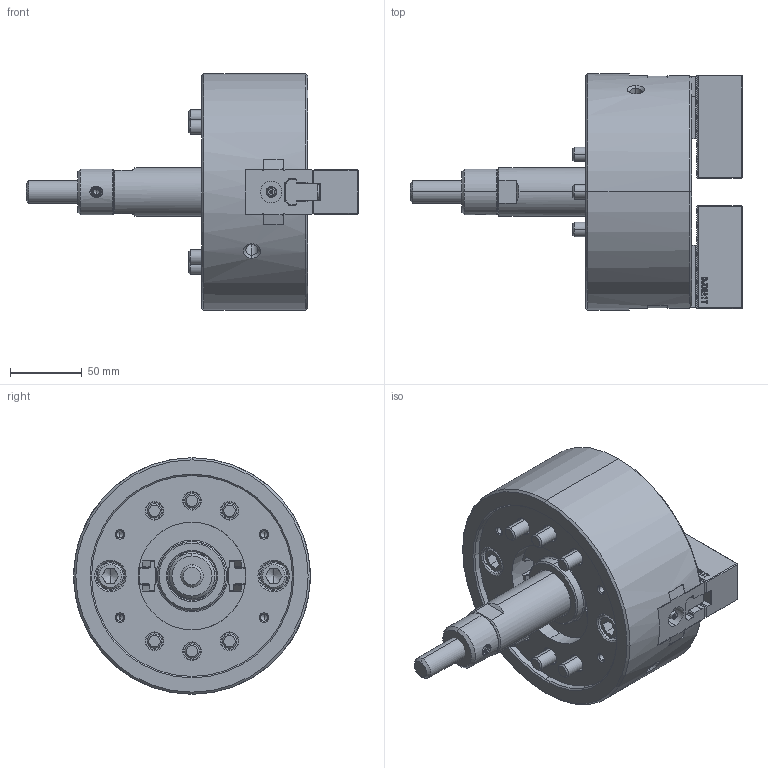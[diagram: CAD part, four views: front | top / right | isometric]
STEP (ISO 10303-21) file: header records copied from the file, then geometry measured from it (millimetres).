
FILE_DESCRIPTION (( 'STEP AP214' ), '1' );
FILE_NAME ('DT1_NLT06_OUTSIDE_VIEW_HCL.STEP', '2026-03-23T00:25:30', ( '' ), ( '' ), 'SwSTEP 2.0', 'SolidWorks 2022', '' );
FILE_SCHEMA (( 'AUTOMOTIVE_DESIGN' ));
Length unit declared in the file: millimetre
Products named in the file (11): DT1_NLT06_DN^DT1_NLT06; DT1_NLT06_OUTSIDE_VIEW_HCL; DT1_NLT06_SOFTJAW^DT1_NLT06; DT1_NLT06_M10x30^DT1_NLT06; DT1_NLT06_M5x12^DT1_NLT06; Copy of P31410^DT1_NLT06; DT1_NLT06_M10x70^DT1_NLT06; DT1_NLT06_TNUT^DT1_NLT06; DT1_NLT06_DRAWSCREW^DT1_NLT06; DT1_NLT06_COVER^DT1_NLT06; DT1_NLT06_BASE^DT1_NLT06
Assembly tree (23 placements, depth 2):
  DT1_NLT06_OUTSIDE_VIEW_HCL
    DT1_NLT06_SOFTJAW^DT1_NLT06  x2
    DT1_NLT06_TNUT^DT1_NLT06  x2
    DT1_NLT06_COVER^DT1_NLT06
    DT1_NLT06_DRAWSCREW^DT1_NLT06
    Copy of P31410^DT1_NLT06
    DT1_NLT06_DN^DT1_NLT06
    DT1_NLT06_BASE^DT1_NLT06
    DT1_NLT06_M10x70^DT1_NLT06  x6
    DT1_NLT06_M10x30^DT1_NLT06  x4
    DT1_NLT06_M5x12^DT1_NLT06  x4
Bounding box: 231.5 x 165 x 165 mm (x, y, z)
Volume: 1614542.9 mm3; surface area: 244167.9 mm2
Topology: 23 solids, 25 shells, 3245 faces, 9033 edges, 5882 vertices
Faces by surface type: plane 1823, cylinder 809, cone 331, bspline 236, torus 42, sphere 4
Entity records: 82424 total; most frequent: CARTESIAN_POINT 24902, ORIENTED_EDGE 12964, DIRECTION 10209, EDGE_CURVE 6482, LINE 4405, VECTOR 4405, VERTEX_POINT 4241, AXIS2_PLACEMENT_3D 2902
